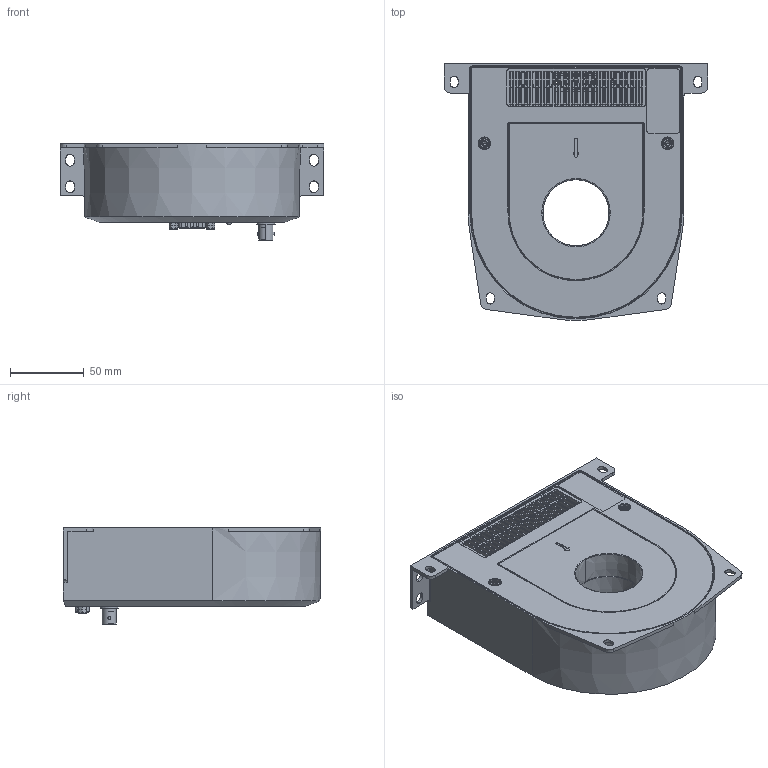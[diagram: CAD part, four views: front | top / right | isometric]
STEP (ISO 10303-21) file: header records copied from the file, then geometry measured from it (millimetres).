
FILE_DESCRIPTION (( 'STEP AP214' ), '1' );
FILE_NAME ('1212200025.STEP', '2020-08-13T08:10:32', ( '' ), ( '' ), 'SwSTEP 2.0', 'SolidWorks 2019', '' );
FILE_SCHEMA (( 'AUTOMOTIVE_DESIGN' ));
Length unit declared in the file: millimetre
Products named in the file (1): 1212200025
Bounding box: 178.6 x 173.92 x 65 mm (x, y, z)
Surface area: 101900.6 mm2 (no closed solid volume)
Topology: 0 solids, 16 shells, 1141 faces, 3531 edges, 2319 vertices
Faces by surface type: plane 497, cone 313, cylinder 191, bspline 106, torus 32, sphere 2
Entity records: 59052 total; most frequent: CARTESIAN_POINT 17435, ORIENTED_EDGE 5735, DIRECTION 5489, EDGE_CURVE 3506, VERTEX_POINT 2318, VECTOR 1913, LINE 1913, AXIS2_PLACEMENT_3D 1788
